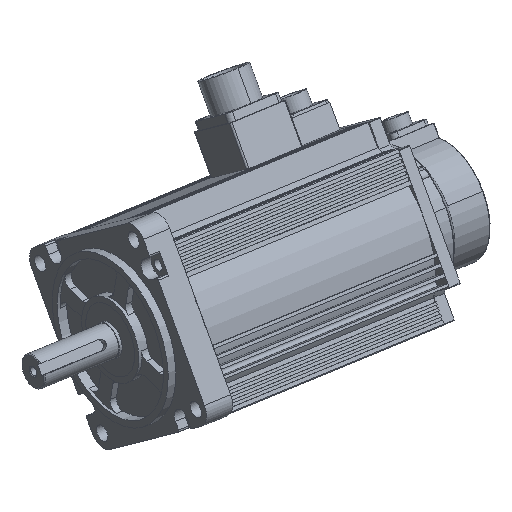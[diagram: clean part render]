
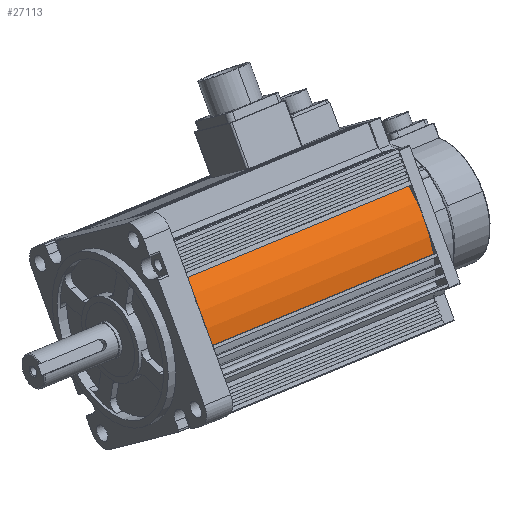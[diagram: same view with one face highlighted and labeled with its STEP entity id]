
A CAD part, isometric view. The second image highlights one B-rep face of the part: STEP entity #27113.
In plain terms, the highlighted cylindrical face has radius 55 mm (diameter 110 mm), a partial arc.
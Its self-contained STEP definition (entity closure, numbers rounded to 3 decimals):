
#521 = EDGE_CURVE ( 'NONE', #14168, #21019, #8844, .T. ) ;
#1349 = CARTESIAN_POINT ( 'NONE',  ( 51.795, -18.5, 0. ) ) ;
#3465 = VECTOR ( 'NONE', #5273, 1000. ) ;
#5273 = DIRECTION ( 'NONE',  ( 0., 0., -1. ) ) ;
#6070 = ORIENTED_EDGE ( 'NONE', *, *, #8857, .F. ) ;
#6234 = CARTESIAN_POINT ( 'NONE',  ( 51.795, -18.5, 145. ) ) ;
#6344 = CARTESIAN_POINT ( 'NONE',  ( 0., 0., 145. ) ) ;
#6848 = FACE_OUTER_BOUND ( 'NONE', #24541, .T. ) ;
#7983 = CARTESIAN_POINT ( 'NONE',  ( 51.795, 18.5, 145. ) ) ;
#8301 = ORIENTED_EDGE ( 'NONE', *, *, #521, .F. ) ;
#8844 = CIRCLE ( 'NONE', #26818, 55. ) ;
#8857 = EDGE_CURVE ( 'NONE', #21019, #17153, #23598, .T. ) ;
#10625 = DIRECTION ( 'NONE',  ( 0., 0., -1. ) ) ;
#10734 = DIRECTION ( 'NONE',  ( 0., 0., -1. ) ) ;
#12011 = VECTOR ( 'NONE', #10625, 1000. ) ;
#12127 = AXIS2_PLACEMENT_3D ( 'NONE', #14453, #21131, #15140 ) ;
#12542 = CARTESIAN_POINT ( 'NONE',  ( 51.795, 18.5, 145. ) ) ;
#14140 = CARTESIAN_POINT ( 'NONE',  ( 51.795, -18.5, 145. ) ) ;
#14168 = VERTEX_POINT ( 'NONE', #6234 ) ;
#14453 = CARTESIAN_POINT ( 'NONE',  ( 0., 0., 0. ) ) ;
#14456 = CIRCLE ( 'NONE', #12127, 55. ) ;
#15140 = DIRECTION ( 'NONE',  ( 1., 0., 0. ) ) ;
#15373 = EDGE_CURVE ( 'NONE', #16875, #17153, #14456, .T. ) ;
#16196 = EDGE_CURVE ( 'NONE', #14168, #16875, #17484, .T. ) ;
#16875 = VERTEX_POINT ( 'NONE', #1349 ) ;
#17153 = VERTEX_POINT ( 'NONE', #19595 ) ;
#17386 = ORIENTED_EDGE ( 'NONE', *, *, #16196, .T. ) ;
#17484 = LINE ( 'NONE', #14140, #3465 ) ;
#19595 = CARTESIAN_POINT ( 'NONE',  ( 51.795, 18.5, 0. ) ) ;
#19799 = CYLINDRICAL_SURFACE ( 'NONE', #20729, 55. ) ;
#20729 = AXIS2_PLACEMENT_3D ( 'NONE', #6344, #10734, #27765 ) ;
#21019 = VERTEX_POINT ( 'NONE', #7983 ) ;
#21131 = DIRECTION ( 'NONE',  ( 0., 0., 1. ) ) ;
#23598 = LINE ( 'NONE', #12542, #12011 ) ;
#24541 = EDGE_LOOP ( 'NONE', ( #24957, #6070, #8301, #17386 ) ) ;
#24957 = ORIENTED_EDGE ( 'NONE', *, *, #15373, .T. ) ;
#25609 = CARTESIAN_POINT ( 'NONE',  ( 0., 0., 145. ) ) ;
#25812 = DIRECTION ( 'NONE',  ( 0., 0., 1. ) ) ;
#26818 = AXIS2_PLACEMENT_3D ( 'NONE', #25609, #25812, #28016 ) ;
#27113 = ADVANCED_FACE ( 'NONE', ( #6848 ), #19799, .T. ) ;
#27765 = DIRECTION ( 'NONE',  ( -1., 0., 0. ) ) ;
#28016 = DIRECTION ( 'NONE',  ( 1., 0., 0. ) ) ;
